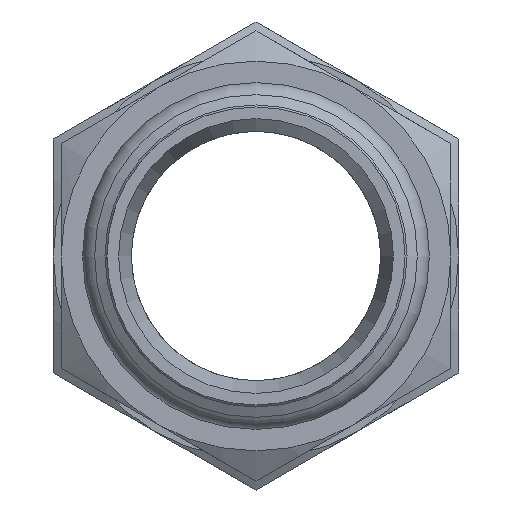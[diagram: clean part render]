
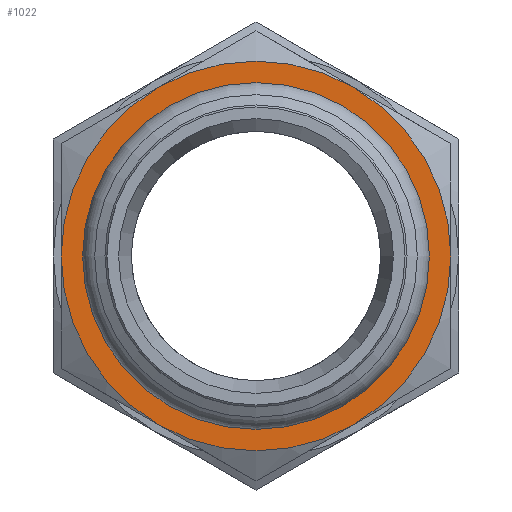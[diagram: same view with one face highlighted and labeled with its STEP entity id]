
A CAD part, left-side view. The second image highlights one B-rep face of the part: STEP entity #1022.
In plain terms, the highlighted planar face has unit normal (-1, 0, 0).
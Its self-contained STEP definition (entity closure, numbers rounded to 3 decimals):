
#946=CARTESIAN_POINT('',(-24.5,19.5,0.));
#947=VERTEX_POINT('',#946);
#948=CARTESIAN_POINT('',(-24.5,0.,0.0));
#949=DIRECTION('',(-1.0,0.0,0.0));
#950=DIRECTION('',(0.0,-1.0,0.0));
#951=AXIS2_PLACEMENT_3D('',#948,#949,#950);
#952=CIRCLE('',#951,19.5);
#953=EDGE_CURVE('',#947,#947,#952,.T.);
#958=CARTESIAN_POINT('',(-24.5,21.25,0.0));
#959=DIRECTION('',(-1.0,0.0,0.0));
#960=DIRECTION('',(0.0,0.0,1.0));
#961=AXIS2_PLACEMENT_3D('',#958,#959,#960);
#962=PLANE('',#961);
#963=CARTESIAN_POINT('',(-24.5,25.0,0.0));
#964=VERTEX_POINT('',#963);
#965=CARTESIAN_POINT('',(-24.5,12.5,21.651));
#966=VERTEX_POINT('',#965);
#967=CARTESIAN_POINT('',(-24.5,0.,0.0));
#968=DIRECTION('',(1.0,0.0,0.0));
#969=DIRECTION('',(0.0,1.0,0.0));
#970=AXIS2_PLACEMENT_3D('',#967,#968,#969);
#971=CIRCLE('',#970,25.);
#972=EDGE_CURVE('',#964,#966,#971,.T.);
#973=ORIENTED_EDGE('',*,*,#972,.F.);
#974=CARTESIAN_POINT('',(-24.5,12.5,-21.651));
#975=VERTEX_POINT('',#974);
#976=CARTESIAN_POINT('',(-24.5,0.,0.0));
#977=DIRECTION('',(1.0,0.0,0.0));
#978=DIRECTION('',(0.0,1.0,0.0));
#979=AXIS2_PLACEMENT_3D('',#976,#977,#978);
#980=CIRCLE('',#979,25.);
#981=EDGE_CURVE('',#975,#964,#980,.T.);
#982=ORIENTED_EDGE('',*,*,#981,.F.);
#983=CARTESIAN_POINT('',(-24.5,-12.5,-21.651));
#984=VERTEX_POINT('',#983);
#985=CARTESIAN_POINT('',(-24.5,0.,0.0));
#986=DIRECTION('',(1.0,0.0,0.0));
#987=DIRECTION('',(0.0,1.0,0.0));
#988=AXIS2_PLACEMENT_3D('',#985,#986,#987);
#989=CIRCLE('',#988,25.);
#990=EDGE_CURVE('',#984,#975,#989,.T.);
#991=ORIENTED_EDGE('',*,*,#990,.F.);
#992=CARTESIAN_POINT('',(-24.5,-25.,0.));
#993=VERTEX_POINT('',#992);
#994=CARTESIAN_POINT('',(-24.5,0.,0.0));
#995=DIRECTION('',(1.0,0.0,0.0));
#996=DIRECTION('',(0.0,1.0,0.0));
#997=AXIS2_PLACEMENT_3D('',#994,#995,#996);
#998=CIRCLE('',#997,25.);
#999=EDGE_CURVE('',#993,#984,#998,.T.);
#1000=ORIENTED_EDGE('',*,*,#999,.F.);
#1001=CARTESIAN_POINT('',(-24.5,-12.5,21.651));
#1002=VERTEX_POINT('',#1001);
#1003=CARTESIAN_POINT('',(-24.5,0.,0.0));
#1004=DIRECTION('',(1.0,0.0,0.0));
#1005=DIRECTION('',(0.0,1.0,0.0));
#1006=AXIS2_PLACEMENT_3D('',#1003,#1004,#1005);
#1007=CIRCLE('',#1006,25.);
#1008=EDGE_CURVE('',#1002,#993,#1007,.T.);
#1009=ORIENTED_EDGE('',*,*,#1008,.F.);
#1010=CARTESIAN_POINT('',(-24.5,0.,0.0));
#1011=DIRECTION('',(1.0,0.0,0.0));
#1012=DIRECTION('',(0.0,1.0,0.0));
#1013=AXIS2_PLACEMENT_3D('',#1010,#1011,#1012);
#1014=CIRCLE('',#1013,25.);
#1015=EDGE_CURVE('',#966,#1002,#1014,.T.);
#1016=ORIENTED_EDGE('',*,*,#1015,.F.);
#1017=EDGE_LOOP('',(#973,#982,#991,#1000,#1009,#1016));
#1018=FACE_OUTER_BOUND('',#1017,.T.);
#1019=ORIENTED_EDGE('',*,*,#953,.F.);
#1020=EDGE_LOOP('',(#1019));
#1021=FACE_BOUND('',#1020,.T.);
#1022=ADVANCED_FACE('',(#1018,#1021),#962,.T.);
